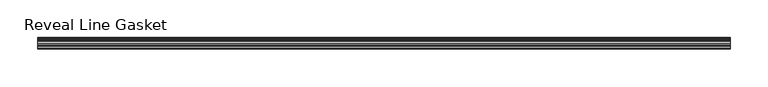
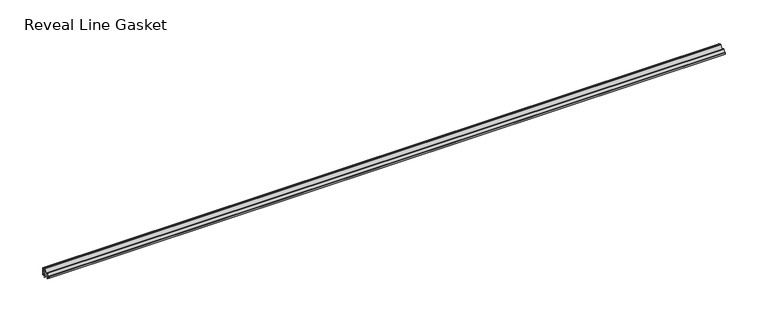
"""IFC4 building model written with IfcOpenShell, lengths in millimetres: proxy geometry, Accessories-Teknion-FHGR-AI_Healthcare-Reveal_Line_Gasket(Horizontal)-R2022 : Reveal Line Gasket."""

from ifc_helpers import new_model, si_unit, point, frame, frame_2d, origin, place, context, project, spatial, polyline, circle_curve, trimmed, segment, composite_curve, outline, extrude, source, transform, mapped, element, save


def reveal_line_gasket_3d0bc3b6(model_context):
    return source(origin(), model_context, "Body", "SweptSolid", [
        extrude(outline(composite_curve([segment(polyline([(7.6326998, 1603.2), (7.6326998, 1597.2), (7.4091917, 1596.2445073), (6.8813059, 1595.3115316)]), True, "CONTINUOUS"), segment(trimmed(circle_curve(frame_2d((6.5243141, 1595.5135207)), 0.4101739), [point((6.8813059, 1595.3115316))], [point((6.1246704, 1595.6058653))], False, "CARTESIAN"), True, "CONTINUOUS"), segment(polyline([(6.1246704, 1595.6058653), (6.3626997, 1597.3020914), (6.3626997, 1599.3345473)]), True, "CONTINUOUS"), segment(trimmed(circle_curve(frame_2d((5.6959605, 1598.9180742)), 0.786124), [point((6.3626997, 1599.3345473))], [point((5.0926996, 1599.422125))], True, "CARTESIAN"), True, "CONTINUOUS"), segment(polyline([(5.0926996, 1599.422125), (0.7492996, 1599.422125), (3.7293824, 1594.2604705)]), True, "CONTINUOUS"), segment(trimmed(circle_curve(frame_2d((3.3132479, 1594.1950239)), 0.4212495), [point((3.7293824, 1594.2604705))], [point((3.0485022, 1593.8673642))], False, "CARTESIAN"), True, "CONTINUOUS"), segment(polyline([(3.0485022, 1593.8673642), (-0.5742594, 1599.422125), (-4.8262978, 1599.422125), (-3.1660374, 1596.5464703)]), True, "CONTINUOUS"), segment(trimmed(circle_curve(frame_2d((-3.5978728, 1596.4881145)), 0.4357605), [point((-3.1660374, 1596.5464703))], [point((-3.864328, 1596.1433119))], False, "CARTESIAN"), True, "CONTINUOUS"), segment(polyline([(-3.864328, 1596.1433119), (-6.1944059, 1599.422125), (-7.6326998, 1599.422125), (-7.6326998, 1600.977875), (-6.1944059, 1600.977875), (-3.864328, 1604.2566881)]), True, "CONTINUOUS"), segment(trimmed(circle_curve(frame_2d((-3.5978728, 1603.9118855)), 0.4357605), [point((-3.864328, 1604.2566881))], [point((-3.1660374, 1603.8535297))], False, "CARTESIAN"), True, "CONTINUOUS"), segment(polyline([(-3.1660374, 1603.8535297), (-4.8262978, 1600.977875), (-0.5742594, 1600.977875), (3.0485022, 1606.5326358)]), True, "CONTINUOUS"), segment(trimmed(circle_curve(frame_2d((3.3132479, 1606.2049761)), 0.4212495), [point((3.0485022, 1606.5326358))], [point((3.7293824, 1606.1395295))], False, "CARTESIAN"), True, "CONTINUOUS"), segment(polyline([(3.7293824, 1606.1395295), (0.7492996, 1600.977875), (5.0926996, 1600.977875)]), True, "CONTINUOUS"), segment(trimmed(circle_curve(frame_2d((5.6959605, 1601.4819258)), 0.786124), [point((5.0926996, 1600.977875))], [point((6.3626997, 1601.0654527))], True, "CARTESIAN"), True, "CONTINUOUS"), segment(polyline([(6.3626997, 1601.0654527), (6.3626997, 1603.0979086), (6.1246704, 1604.7941347)]), True, "CONTINUOUS"), segment(trimmed(circle_curve(frame_2d((6.5243141, 1604.8864793)), 0.4101739), [point((6.1246704, 1604.7941347))], [point((6.8813059, 1605.0884684))], False, "CARTESIAN"), True, "CONTINUOUS"), segment(polyline([(6.8813059, 1605.0884684), (7.4091917, 1604.1554927), (7.6326998, 1603.2)]), True, "CONTINUOUS")], self_intersect=False)), frame((-458.4954, 0.0, 0.0), z_axis=(1.0, 0.0, 0.0), x_axis=(0.0, 1.0, 0.0)), (0.0, 0.0, 1.0), 916.9908),
    ])


if __name__ == "__main__":
    model = new_model("IFC4")
    model_context = context("Model", 3, world=origin())
    ifc_project = project(units=[si_unit("LENGTHUNIT", "METRE", prefix="MILLI")], contexts=[model_context])
    site = spatial("IfcSite", under=ifc_project)
    building = spatial("IfcBuilding", under=site)
    placement = place(None, origin())
    reveal_line_gasket_shape = reveal_line_gasket_3d0bc3b6(model_context)
    element("IfcBuildingElementProxy", 1, Name="Accessories-Teknion-FHGR-AI_Healthcare-Reveal_Line_Gasket(Horizontal)-R2022 : Reveal Line Gasket", ObjectType="Accessories-Teknion-FHGR-AI_Healthcare-Reveal_Line_Gasket(Horizontal)-R2022 : Reveal Line Gasket", at=placement, inside=building, context=model_context, shape_type="MappedRepresentation", body=[
        mapped(reveal_line_gasket_shape, transform((0.0, 0.0, 0.0), x_axis=(1.0, 0.0, 0.0), y_axis=(0.0, 1.0, 0.0), z_axis=(0.0, 0.0, 1.0))),
    ])
    save(model, "model.ifc")
